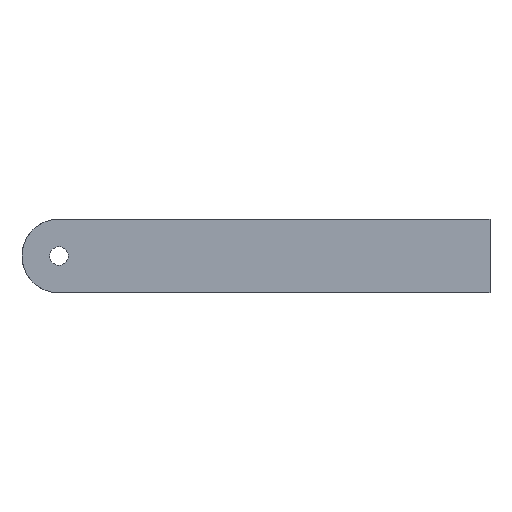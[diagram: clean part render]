
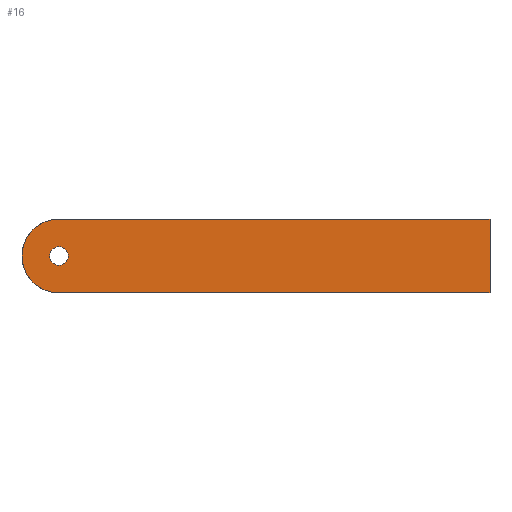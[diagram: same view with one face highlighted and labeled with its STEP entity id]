
A CAD part, front view. The second image highlights one B-rep face of the part: STEP entity #16.
In plain terms, the highlighted planar face has unit normal (0, -1, 0).
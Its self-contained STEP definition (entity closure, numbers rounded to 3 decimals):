
#16 = ADVANCED_FACE ( 'NONE', ( #631, #776 ), #915, .F. ) ;
#36 = CARTESIAN_POINT ( 'NONE',  ( 70., 0., -6. ) ) ;
#52 = EDGE_CURVE ( 'NONE', #715, #560, #731, .T. ) ;
#70 = AXIS2_PLACEMENT_3D ( 'NONE', #466, #750, #115 ) ;
#73 = DIRECTION ( 'NONE',  ( 0., 0., 1. ) ) ;
#74 = CARTESIAN_POINT ( 'NONE',  ( 0., 0., 0. ) ) ;
#80 = CARTESIAN_POINT ( 'NONE',  ( 0., 0., 0. ) ) ;
#92 = VERTEX_POINT ( 'NONE', #860 ) ;
#103 = CARTESIAN_POINT ( 'NONE',  ( 0., 0., -6. ) ) ;
#115 = DIRECTION ( 'NONE',  ( 0., 0., 1. ) ) ;
#118 = VERTEX_POINT ( 'NONE', #370 ) ;
#126 = VERTEX_POINT ( 'NONE', #103 ) ;
#143 = DIRECTION ( 'NONE',  ( 0., 0., 1. ) ) ;
#145 = EDGE_LOOP ( 'NONE', ( #557, #629 ) ) ;
#148 = ORIENTED_EDGE ( 'NONE', *, *, #609, .F. ) ;
#216 = CARTESIAN_POINT ( 'NONE',  ( 0., 0., 0. ) ) ;
#250 = ORIENTED_EDGE ( 'NONE', *, *, #524, .F. ) ;
#266 = CIRCLE ( 'NONE', #736, 6. ) ;
#275 = DIRECTION ( 'NONE',  ( 0., 1., 0. ) ) ;
#322 = AXIS2_PLACEMENT_3D ( 'NONE', #74, #633, #143 ) ;
#359 = EDGE_CURVE ( 'NONE', #92, #126, #867, .T. ) ;
#366 = DIRECTION ( 'NONE',  ( 0., 0., 1. ) ) ;
#370 = CARTESIAN_POINT ( 'NONE',  ( 0., 0., 6. ) ) ;
#434 = CARTESIAN_POINT ( 'NONE',  ( 0., 0., 6. ) ) ;
#438 = LINE ( 'NONE', #434, #592 ) ;
#466 = CARTESIAN_POINT ( 'NONE',  ( 0., 0., 0. ) ) ;
#514 = CARTESIAN_POINT ( 'NONE',  ( 0., 0., -6. ) ) ;
#524 = EDGE_CURVE ( 'NONE', #118, #840, #438, .T. ) ;
#531 = CARTESIAN_POINT ( 'NONE',  ( 0., 0., 1.5 ) ) ;
#535 = EDGE_LOOP ( 'NONE', ( #148, #757, #833, #250 ) ) ;
#557 = ORIENTED_EDGE ( 'NONE', *, *, #694, .T. ) ;
#560 = VERTEX_POINT ( 'NONE', #794 ) ;
#564 = CIRCLE ( 'NONE', #70, 1.5 ) ;
#587 = DIRECTION ( 'NONE',  ( -1., 0., 0. ) ) ;
#592 = VECTOR ( 'NONE', #872, 1000. ) ;
#609 = EDGE_CURVE ( 'NONE', #126, #118, #266, .T. ) ;
#629 = ORIENTED_EDGE ( 'NONE', *, *, #52, .T. ) ;
#631 = FACE_OUTER_BOUND ( 'NONE', #535, .T. ) ;
#633 = DIRECTION ( 'NONE',  ( 0., 1., 0. ) ) ;
#641 = AXIS2_PLACEMENT_3D ( 'NONE', #216, #275, #73 ) ;
#694 = EDGE_CURVE ( 'NONE', #560, #715, #564, .T. ) ;
#713 = DIRECTION ( 'NONE',  ( 0., 1., 0. ) ) ;
#715 = VERTEX_POINT ( 'NONE', #531 ) ;
#731 = CIRCLE ( 'NONE', #641, 1.5 ) ;
#736 = AXIS2_PLACEMENT_3D ( 'NONE', #80, #713, #366 ) ;
#750 = DIRECTION ( 'NONE',  ( 0., 1., 0. ) ) ;
#757 = ORIENTED_EDGE ( 'NONE', *, *, #359, .F. ) ;
#763 = LINE ( 'NONE', #36, #801 ) ;
#776 = FACE_BOUND ( 'NONE', #145, .T. ) ;
#785 = EDGE_CURVE ( 'NONE', #840, #92, #763, .T. ) ;
#794 = CARTESIAN_POINT ( 'NONE',  ( 0., 0., -1.5 ) ) ;
#801 = VECTOR ( 'NONE', #822, 1000. ) ;
#822 = DIRECTION ( 'NONE',  ( 0., 0., -1. ) ) ;
#833 = ORIENTED_EDGE ( 'NONE', *, *, #785, .F. ) ;
#840 = VERTEX_POINT ( 'NONE', #900 ) ;
#860 = CARTESIAN_POINT ( 'NONE',  ( 70., 0., -6. ) ) ;
#867 = LINE ( 'NONE', #514, #873 ) ;
#872 = DIRECTION ( 'NONE',  ( 1., 0., 0. ) ) ;
#873 = VECTOR ( 'NONE', #587, 1000. ) ;
#900 = CARTESIAN_POINT ( 'NONE',  ( 70., 0., 6. ) ) ;
#915 = PLANE ( 'NONE',  #322 ) ;
